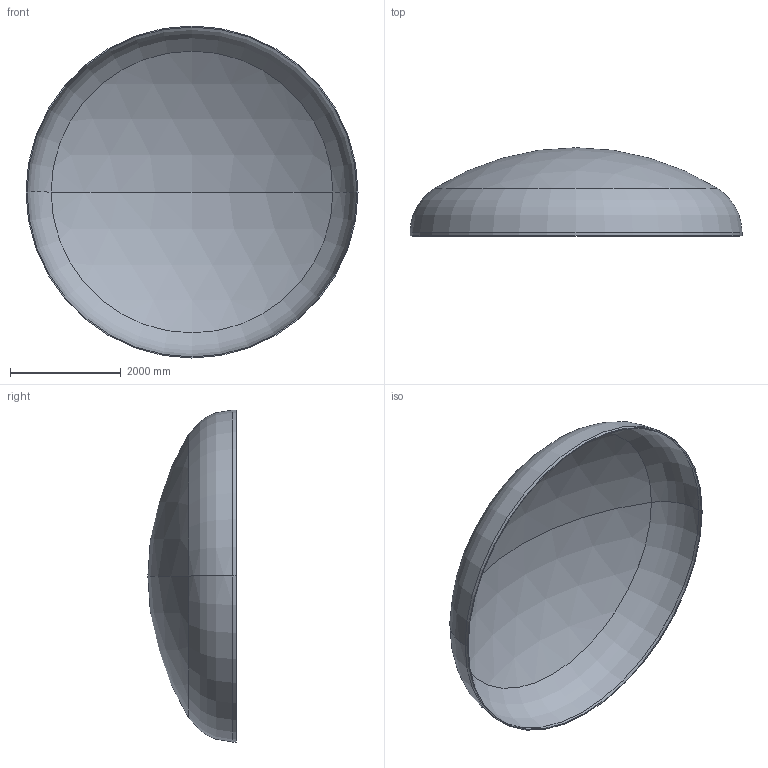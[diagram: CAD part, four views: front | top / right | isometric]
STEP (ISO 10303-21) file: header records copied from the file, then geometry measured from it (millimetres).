
FILE_DESCRIPTION (( 'STEP AP203' ), '1' );
FILE_NAME ('DIN 28013 Korbbogenform_-_Boden DIN 28013 - 6000 x 60 - I - s=19.step', '2016-07-04T10:36:00', ( '' ), ( '' ), 'SwSTEP 2.0', 'SolidWorks 2013', '' );
FILE_SCHEMA (( 'CONFIG_CONTROL_DESIGN' ));
Length unit declared in the file: millimetre
Products named in the file (1): DIN 28013 Korbbogenform_-_Boden DIN 28013 - 6000 x 60 - I - s=19
Bounding box: 6000 x 1594.42 x 6000 mm (x, y, z)
Volume: 762548726.8 mm3; surface area: 80626018 mm2
Topology: 1 solids, 1 shells, 13 faces, 24 edges, 14 vertices
Faces by surface type: torus 4, cylinder 4, sphere 4, plane 1
Entity records: 407 total; most frequent: DIRECTION 72, CARTESIAN_POINT 52, ORIENTED_EDGE 48, AXIS2_PLACEMENT_3D 34, EDGE_CURVE 24, CIRCLE 20, VERTEX_POINT 14, EDGE_LOOP 14
